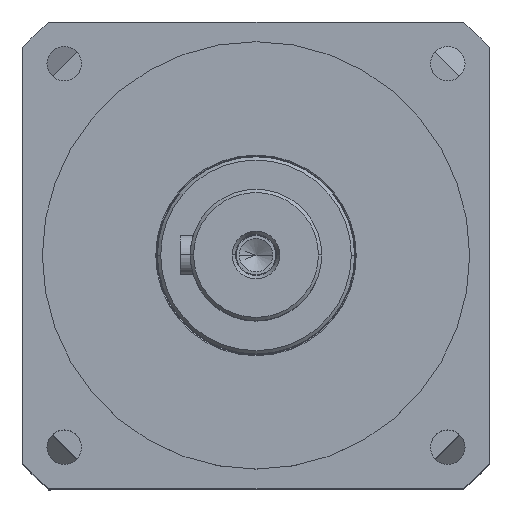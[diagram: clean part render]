
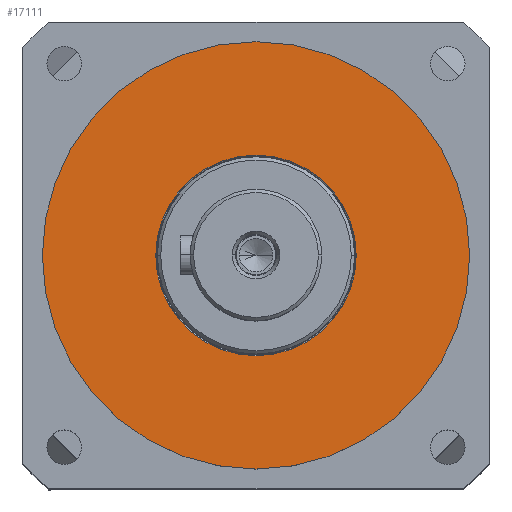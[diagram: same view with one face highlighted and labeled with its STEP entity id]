
A CAD part, top view. The second image highlights one B-rep face of the part: STEP entity #17111.
In plain terms, the highlighted planar face has unit normal (0, 0, 1).
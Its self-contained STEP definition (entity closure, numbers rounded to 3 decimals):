
#7805 = CARTESIAN_POINT ( 'NONE',  ( -30.5, 0., -71. ) ) ;
#7806 = CARTESIAN_POINT ( 'NONE',  ( 30.5, 0., -71. ) ) ;
#7831 = CARTESIAN_POINT ( 'NONE',  ( -65., 0., -71. ) ) ;
#7839 = CARTESIAN_POINT ( 'NONE',  ( 0., 0., -71. ) ) ;
#7875 = DIRECTION ( 'NONE',  ( -1., 0., 0. ) ) ;
#7876 = DIRECTION ( 'NONE',  ( 0., 0., -1. ) ) ;
#7877 = AXIS2_PLACEMENT_3D ( 'NONE', #7839, #7876, #7875 ) ;
#7878 = CIRCLE ( 'NONE', #7877, 30.5 ) ;
#16588 = VERTEX_POINT ( 'NONE', #7831 ) ;
#16598 = EDGE_CURVE ( 'NONE', #16599, #16600, #7878, .T. ) ;
#16599 = VERTEX_POINT ( 'NONE', #7806 ) ;
#16600 = VERTEX_POINT ( 'NONE', #7805 ) ;
#16689 = EDGE_CURVE ( 'NONE', #16690, #16588, #18985, .T. ) ;
#16690 = VERTEX_POINT ( 'NONE', #19216 ) ;
#17111 = ADVANCED_FACE ( 'NONE', ( #21391, #21396 ), #21395, .T. ) ;
#17116 = EDGE_LOOP ( 'NONE', ( #17117, #17119 ) ) ;
#17117 = ORIENTED_EDGE ( 'NONE', *, *, #17118, .T. ) ;
#17118 = EDGE_CURVE ( 'NONE', #16600, #16599, #21415, .T. ) ;
#17119 = ORIENTED_EDGE ( 'NONE', *, *, #16598, .T. ) ;
#17120 = EDGE_LOOP ( 'NONE', ( #17121, #17122 ) ) ;
#17121 = ORIENTED_EDGE ( 'NONE', *, *, #16689, .T. ) ;
#17122 = ORIENTED_EDGE ( 'NONE', *, *, #17123, .T. ) ;
#17123 = EDGE_CURVE ( 'NONE', #16588, #16690, #21418, .T. ) ;
#18983 = CARTESIAN_POINT ( 'NONE',  ( 0., 0., -71. ) ) ;
#18984 = AXIS2_PLACEMENT_3D ( 'NONE', #18983, #19218, #19217 ) ;
#18985 = CIRCLE ( 'NONE', #18984, 65. ) ;
#19216 = CARTESIAN_POINT ( 'NONE',  ( 65., 0., -71. ) ) ;
#19217 = DIRECTION ( 'NONE',  ( 1., 0., 0. ) ) ;
#19218 = DIRECTION ( 'NONE',  ( 0., 0., 1. ) ) ;
#21327 = DIRECTION ( 'NONE',  ( 1., 0., 0. ) ) ;
#21391 = FACE_BOUND ( 'NONE', #17116, .T. ) ;
#21394 = CARTESIAN_POINT ( 'NONE',  ( 0., 0., -71. ) ) ;
#21395 = PLANE ( 'NONE',  #21408 ) ;
#21396 = FACE_OUTER_BOUND ( 'NONE', #17120, .T. ) ;
#21407 = DIRECTION ( 'NONE',  ( 0., 0., 1. ) ) ;
#21408 = AXIS2_PLACEMENT_3D ( 'NONE', #21394, #21407, #21327 ) ;
#21415 = CIRCLE ( 'NONE', #21425, 30.5 ) ;
#21417 = AXIS2_PLACEMENT_3D ( 'NONE', #21441, #21433, #21432 ) ;
#21418 = CIRCLE ( 'NONE', #21417, 65. ) ;
#21425 = AXIS2_PLACEMENT_3D ( 'NONE', #21446, #21431, #21450 ) ;
#21431 = DIRECTION ( 'NONE',  ( 0., 0., -1. ) ) ;
#21432 = DIRECTION ( 'NONE',  ( 1., 0., 0. ) ) ;
#21433 = DIRECTION ( 'NONE',  ( 0., 0., 1. ) ) ;
#21441 = CARTESIAN_POINT ( 'NONE',  ( 0., 0., -71. ) ) ;
#21446 = CARTESIAN_POINT ( 'NONE',  ( 0., 0., -71. ) ) ;
#21450 = DIRECTION ( 'NONE',  ( -1., 0., 0. ) ) ;
